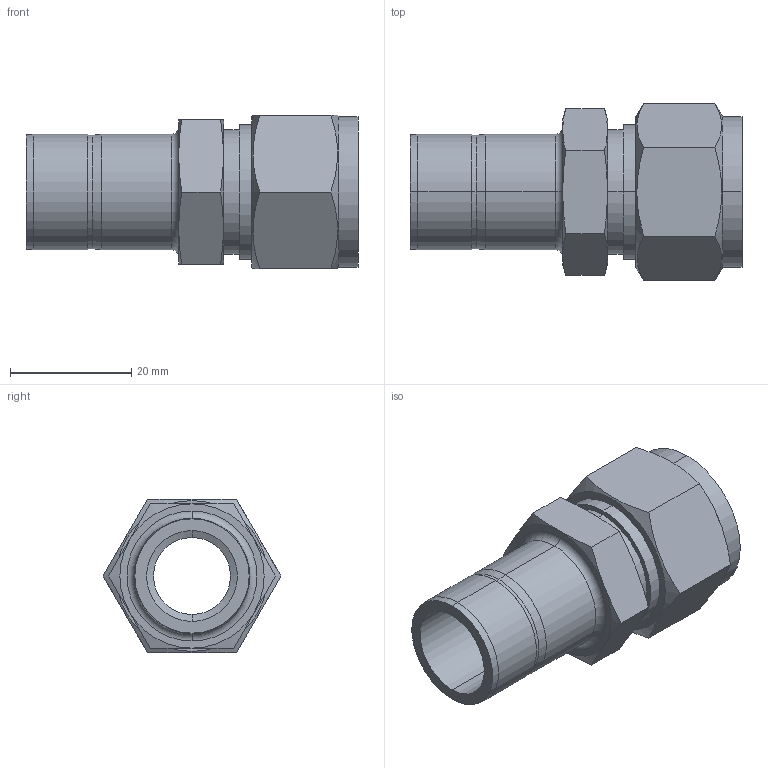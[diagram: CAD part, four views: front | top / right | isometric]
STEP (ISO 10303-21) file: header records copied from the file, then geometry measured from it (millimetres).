
FILE_DESCRIPTION (( 'STEP AP203' ), '1' );
FILE_NAME ('DRE10-12 SS.STEP', '2009-09-08T08:38:31', ( ' ' ), ( '' ), 'SwSTEP 2.0', 'SolidWorks 2008', '' );
FILE_SCHEMA (( 'CONFIG_CONTROL_DESIGN' ));
Length unit declared in the file: millimetre
Products named in the file (1): DRE10-12 SS
Bounding box: 54.8 x 29.33 x 25.4 mm (x, y, z)
Volume: 12108.8 mm3; surface area: 7583.5 mm2
Topology: 1 solids, 1 shells, 63 faces, 138 edges, 82 vertices
Faces by surface type: cone 24, plane 19, cylinder 18, torus 2
Entity records: 1965 total; most frequent: CARTESIAN_POINT 540, DIRECTION 282, ORIENTED_EDGE 276, EDGE_CURVE 138, AXIS2_PLACEMENT_3D 120, VERTEX_POINT 82, EDGE_LOOP 70, ADVANCED_FACE 63
